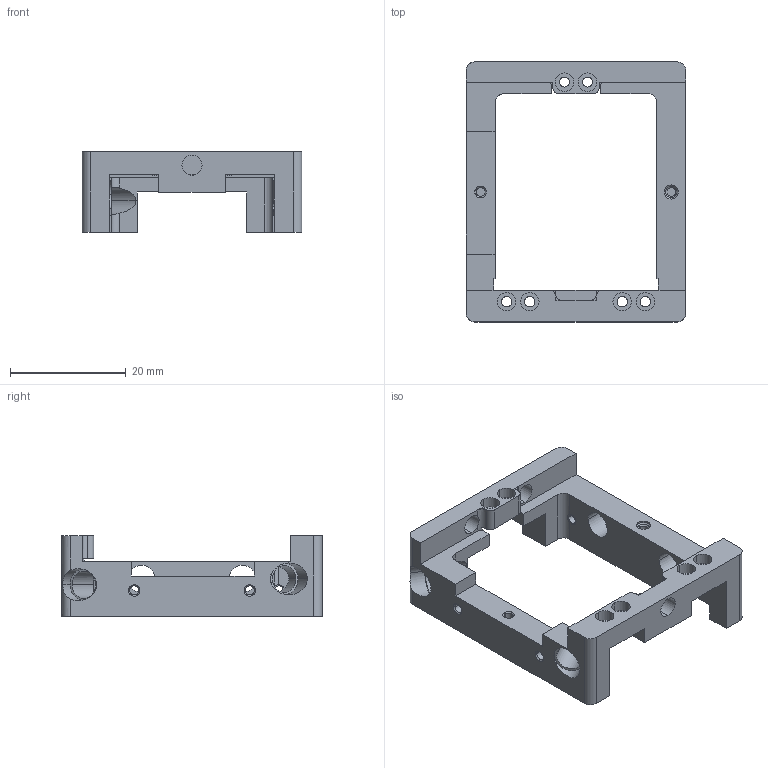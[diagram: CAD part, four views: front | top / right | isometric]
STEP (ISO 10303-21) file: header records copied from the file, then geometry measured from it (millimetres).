
FILE_DESCRIPTION(/* description */ ('VariCAD 2010-3.03 AP-214'),/* implementation_level */ '2;1');
FILE_NAME(/* name */ '0353-19-44',/* time_stamp */ '2011-01-17T14:43:15-07:00',/* author */ (''),/* organization */ (''),/* preprocessor_version */ 'ST-DEVELOPER v12',/* originating_system */ 'VariCAD 2010-3.03; kernel version (20100102)',/* authorisation */ '');
FILE_SCHEMA (('AUTOMOTIVE_DESIGN'));
Length unit declared in the file: millimetre
Products named in the file (1): Part
Bounding box: 38 x 45 x 14 mm (x, y, z)
Volume: 5350.9 mm3; surface area: 5357.4 mm2
Topology: 7 solids, 7 shells, 209 faces, 560 edges, 360 vertices
Faces by surface type: cylinder 110, plane 85, cone 14
Entity records: 8396 total; most frequent: CARTESIAN_POINT 1399, DIRECTION 1172, ORIENTED_EDGE 1120, EDGE_CURVE 560, AXIS2_PLACEMENT_3D 427, VERTEX_POINT 360, LINE 318, VECTOR 318
